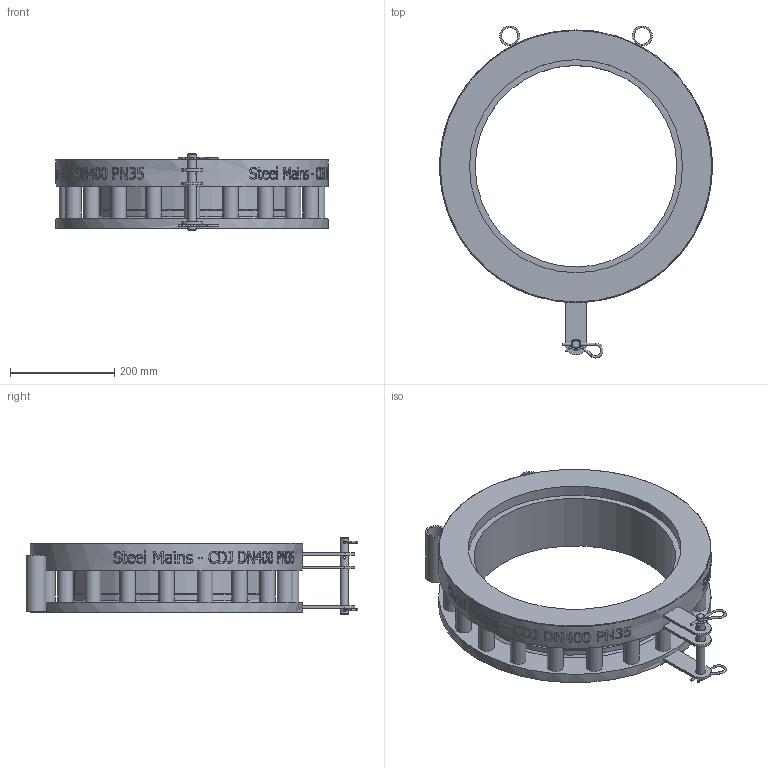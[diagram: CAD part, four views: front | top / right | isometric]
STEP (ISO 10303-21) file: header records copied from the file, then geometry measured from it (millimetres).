
FILE_DESCRIPTION(/* description */ (''),/* implementation_level */ '2;1');
FILE_NAME(/* name */ 'C:\Vault\Designs\Somerton\196\196-35 Models\Marketing Files\SteelMains - CDJ DN400 PN35 - (196-35T rev B).stp',/* time_stamp */ '2025-09-29T10:20:19+10:00',/* author */ ('Sam.Cavallaro'),/* organization */ (''),/* preprocessor_version */ 'ST-DEVELOPER v18.1',/* originating_system */ 'Autodesk Inventor 2021',/* authorisation */ '');
FILE_SCHEMA (('AUTOMOTIVE_DESIGN { 1 0 10303 214 3 1 1 }'));
Length unit declared in the file: millimetre
Products named in the file (1): SPS_ENG-084808
Bounding box: 522 x 635.59 x 146 mm (x, y, z)
Volume: 8309409.8 mm3; surface area: 890005.4 mm2
Topology: 6 solids, 6 shells, 839 faces, 2279 edges, 1520 vertices
Faces by surface type: bspline 392, plane 317, cylinder 117, torus 8, cone 5
Full cylindrical faces by diameter (mm): 4 x10, 5 x3, 16 x1, 20 x3, 30 x20, 31.6 x2, 38.1 x2, 386 x1, 402 x1, 406 x1, 408 x1, 522 x1
Entity records: 36782 total; most frequent: CARTESIAN_POINT 17559, ORIENTED_EDGE 4564, DIRECTION 2793, EDGE_CURVE 2282, VERTEX_POINT 1523, LINE 1061, VECTOR 1061, EDGE_LOOP 965
